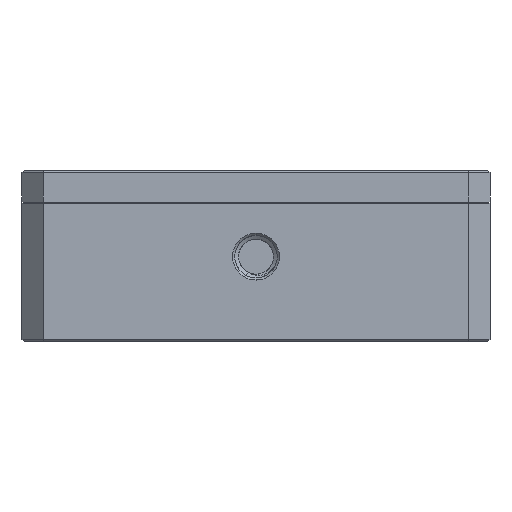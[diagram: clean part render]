
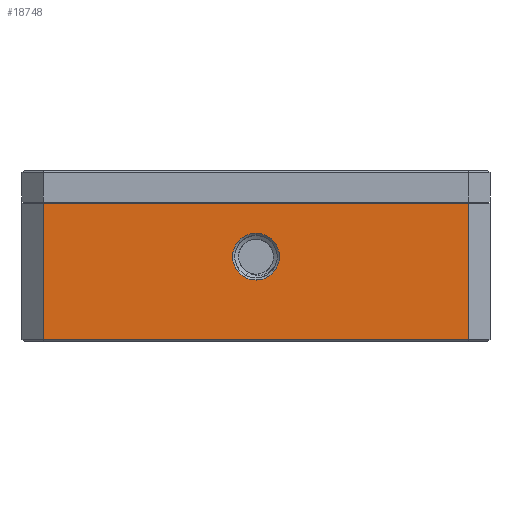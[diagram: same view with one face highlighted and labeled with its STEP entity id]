
A CAD part, front view. The second image highlights one B-rep face of the part: STEP entity #18748.
In plain terms, the highlighted planar face has unit normal (0, -1, 0).
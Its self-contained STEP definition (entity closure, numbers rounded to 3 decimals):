
#1855=DIRECTION('',(1.,0.,0.));
#1856=VECTOR('',#1855,40.);
#1857=CARTESIAN_POINT('',(-20.,-25.,13.));
#1858=LINE('',#1857,#1856);
#1959=DIRECTION('',(-1.,0.,0.));
#1960=VECTOR('',#1959,40.);
#1961=CARTESIAN_POINT('',(20.,-25.,0.2));
#1962=LINE('',#1961,#1960);
#1963=DIRECTION('',(0.,0.,-1.));
#1964=VECTOR('',#1963,12.8);
#1965=CARTESIAN_POINT('',(-20.,-25.,13.));
#1966=LINE('',#1965,#1964);
#1967=DIRECTION('',(0.,0.,-1.));
#1968=VECTOR('',#1967,12.8);
#1969=CARTESIAN_POINT('',(20.,-25.,13.));
#1970=LINE('',#1969,#1968);
#1971=CARTESIAN_POINT('',(0.,-25.,8.));
#1972=DIRECTION('',(0.,1.,0.));
#1973=DIRECTION('',(0.,0.,1.));
#1974=AXIS2_PLACEMENT_3D('',#1971,#1972,#1973);
#1976=CARTESIAN_POINT('',(0.,-25.,8.));
#1977=DIRECTION('',(0.,1.,0.));
#1978=DIRECTION('',(0.,0.,-1.));
#1979=AXIS2_PLACEMENT_3D('',#1976,#1977,#1978);
#15397=CARTESIAN_POINT('',(-20.,-25.,13.));
#15399=VERTEX_POINT('',#15397);
#15400=CARTESIAN_POINT('',(20.,-25.,13.));
#15402=VERTEX_POINT('',#15400);
#15495=CARTESIAN_POINT('',(20.,-25.,0.2));
#15497=VERTEX_POINT('',#15495);
#15498=CARTESIAN_POINT('',(-20.,-25.,0.2));
#15499=VERTEX_POINT('',#15498);
#16317=CARTESIAN_POINT('',(0.,-25.,10.2));
#16318=CARTESIAN_POINT('',(0.,-25.,5.8));
#16319=VERTEX_POINT('',#16317);
#16320=VERTEX_POINT('',#16318);
#18729=CARTESIAN_POINT('',(-22.,-25.,0.));
#18730=DIRECTION('',(0.,-1.,0.));
#18731=DIRECTION('',(1.,0.,0.));
#18732=AXIS2_PLACEMENT_3D('',#18729,#18730,#18731);
#18733=PLANE('',#18732);
#18734=ORIENTED_EDGE('',*,*,#18720,.T.);
#18736=ORIENTED_EDGE('',*,*,#18735,.F.);
#18737=ORIENTED_EDGE('',*,*,#18633,.T.);
#18739=ORIENTED_EDGE('',*,*,#18738,.T.);
#18740=EDGE_LOOP('',(#18734,#18736,#18737,#18739));
#18741=FACE_OUTER_BOUND('',#18740,.F.);
#18743=ORIENTED_EDGE('',*,*,#18742,.F.);
#18745=ORIENTED_EDGE('',*,*,#18744,.F.);
#18746=EDGE_LOOP('',(#18743,#18745));
#18747=FACE_BOUND('',#18746,.F.);
#18748=ADVANCED_FACE('',(#18741,#18747),#18733,.T.);
#1975=CIRCLE('',#1974,2.2);
#1980=CIRCLE('',#1979,2.2);
#18633=EDGE_CURVE('',#15399,#15402,#1858,.T.);
#18720=EDGE_CURVE('',#15497,#15499,#1962,.T.);
#18735=EDGE_CURVE('',#15399,#15499,#1966,.T.);
#18738=EDGE_CURVE('',#15402,#15497,#1970,.T.);
#18742=EDGE_CURVE('',#16319,#16320,#1975,.T.);
#18744=EDGE_CURVE('',#16320,#16319,#1980,.T.);
